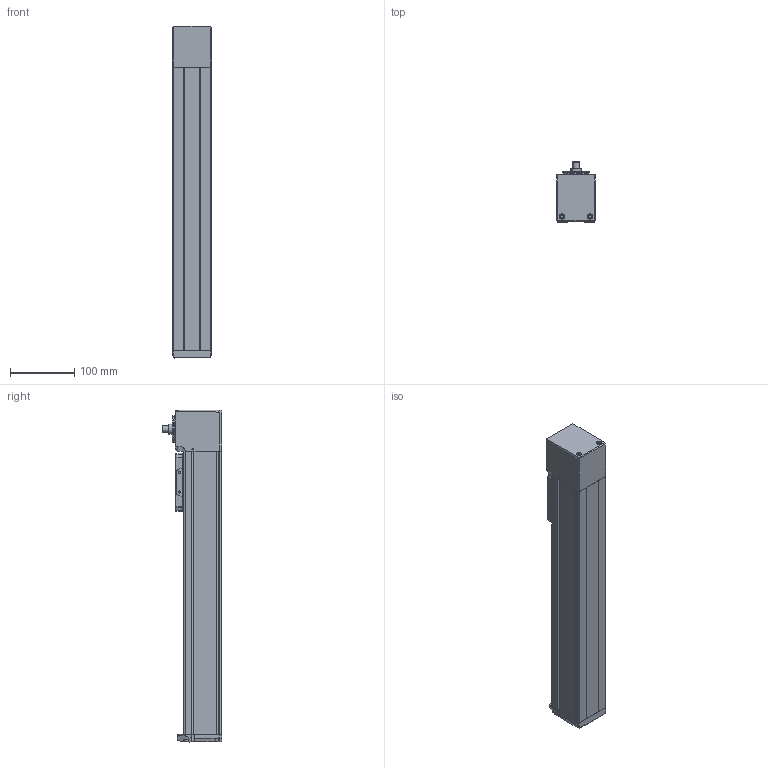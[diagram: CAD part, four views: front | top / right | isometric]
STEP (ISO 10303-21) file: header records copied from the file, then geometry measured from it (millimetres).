
FILE_DESCRIPTION(/* description */ ('STEP AP214'),/* implementation_level */ '2;1');
FILE_NAME(/* name */ 'MGTB 60 300(0)',/* time_stamp */ '2023-04-17T13:39:06+02:00',/* author */ ('License CC BY-ND 4.0'),/* organization */ ('CADENAS'),/* preprocessor_version */ 'ST-DEVELOPER v19.3',/* originating_system */ 'PARTsolutions',/* authorisation */ ' ');
FILE_SCHEMA (('AUTOMOTIVE_DESIGN {1 0 10303 214 3 1 1}'));
Length unit declared in the file: millimetre
Products named in the file (6): MGTB 60 300(0); MGTB 60 300_protection_strip; MGTB 60_carriage; MGTB 60_end_block; MGTB 60 300_profile; MGTB 60_drive_block
Assembly tree (5 placements, depth 2):
  MGTB 60 300(0)
    MGTB 60 300_protection_strip
    MGTB 60_carriage
    MGTB 60_end_block
    MGTB 60 300_profile
    MGTB 60_drive_block
Bounding box: 60 x 92.5 x 515.01 mm (x, y, z)
Volume: 1885245.6 mm3; surface area: 234070.8 mm2
Topology: 5 solids, 5 shells, 696 faces, 1771 edges, 1140 vertices
Faces by surface type: plane 351, cylinder 156, cone 94, bspline 68, torus 25, sphere 2
Full cylindrical faces by diameter (mm): 2 x1, 2.459 x4, 3.242 x6, 4 x12, 4.134 x8, 4.2 x2, 4.8 x2, 5 x2, 5.5 x4, 7 x6, 8 x4, 10 x1, 11 x3, 16 x1, 17 x1, 30 x1, 35 x1, 42 x2
Entity records: 25037 total; most frequent: CARTESIAN_POINT 4184, DIRECTION 3411, ORIENTED_EDGE 3232, EDGE_CURVE 1616, AXIS2_PLACEMENT_3D 1219, VERTEX_POINT 1120, LINE 973, VECTOR 973
